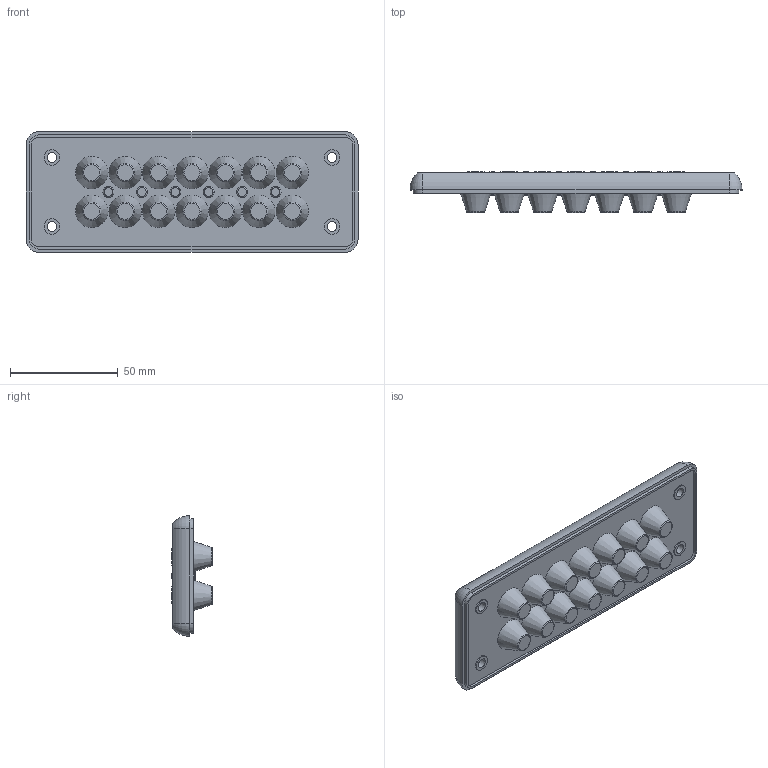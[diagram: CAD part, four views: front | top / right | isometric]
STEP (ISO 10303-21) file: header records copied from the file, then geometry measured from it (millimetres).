
FILE_DESCRIPTION(/* description */ ('STEP AP203'),/* implementation_level */ '2;1');
FILE_NAME(/* name */ '107559 MH-24 F 20-1',/* time_stamp */ '2024-10-07T12:27:46+02:00',/* author */ ('License CC BY-ND 4.0'),/* organization */ ('CADENAS'),/* preprocessor_version */ 'ST-DEVELOPER v19.3',/* originating_system */ 'PARTsolutions',/* authorisation */ ' ');
FILE_SCHEMA (('CONFIG_CONTROL_DESIGN'));
Length unit declared in the file: millimetre
Products named in the file (1): 107559 MH-24 F 20-1
Bounding box: 154 x 19 x 56 mm (x, y, z)
Volume: 84757.2 mm3; surface area: 24829.1 mm2
Topology: 1 solids, 1 shells, 160 faces, 316 edges, 208 vertices
Faces by surface type: plane 64, cone 44, torus 28, cylinder 24
Full cylindrical faces by diameter (mm): 4.5 x4, 7.2 x4
Entity records: 3630 total; most frequent: DIRECTION 702, CARTESIAN_POINT 561, ORIENTED_EDGE 432, AXIS2_PLACEMENT_3D 325, EDGE_LOOP 294, FACE_BOUND 294, EDGE_CURVE 216, VERTEX_POINT 184
